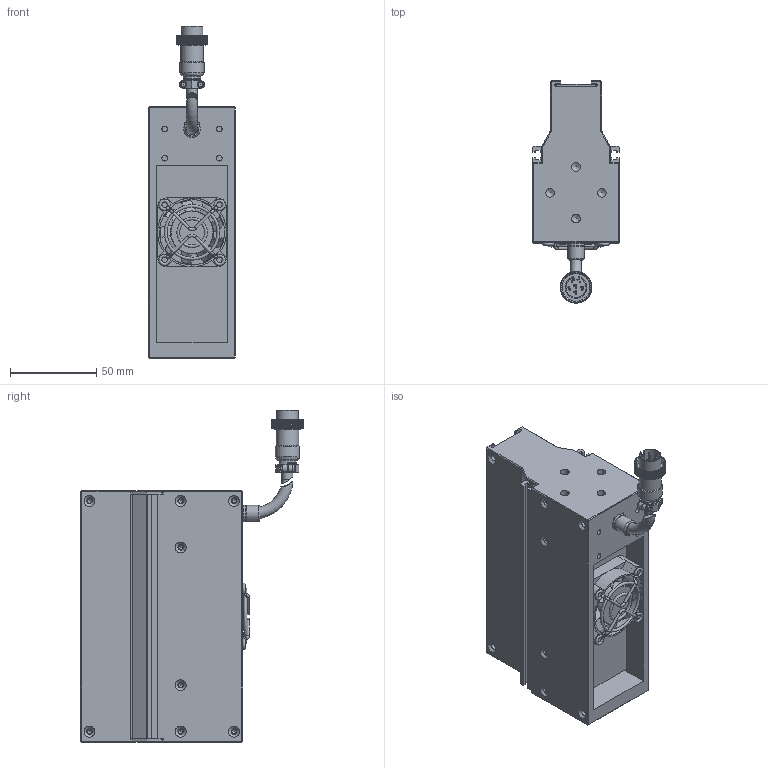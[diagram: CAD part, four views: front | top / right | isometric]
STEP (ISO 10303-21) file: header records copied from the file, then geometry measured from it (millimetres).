
FILE_DESCRIPTION (( 'STEP AP203' ), '1' );
FILE_NAME ('OPT-LSS146-W-V3.1U尨砩芞.STEP', '2025-01-20T07:49:30', ( 'USER' ), ( '' ), 'SwSTEP 2.0', 'SolidWorks 2016', '' );
FILE_SCHEMA (( 'CONFIG_CONTROL_DESIGN' ));
Length unit declared in the file: millimetre
Products named in the file (2): OPT-LSS146-W-V3.1U尨砩芞
Bounding box: 50 x 129.15 x 192.83 mm (x, y, z)
Volume: 499491.3 mm3; surface area: 96930.3 mm2
Topology: 10 solids, 18 shells, 3506 faces, 7734 edges, 4311 vertices
Faces by surface type: bspline 2086, cylinder 692, plane 616, torus 63, cone 49
Full cylindrical faces by diameter (mm): 0.95 x6, 1.1 x2, 1.4 x2, 1.6 x4, 2 x5, 2.5 x16, 3.2 x8, 3.4 x16, 3.5 x4, 5 x8, 6.2 x4, 6.4 x3, 7.5 x1, 8.6 x1, 9.3 x1, 9.8 x1, 10 x1, 13.2 x1, 14 x1, 16.1 x1, 24.8 x1, 38 x1
Entity records: 118718 total; most frequent: CARTESIAN_POINT 60998, ORIENTED_EDGE 15028, EDGE_CURVE 7514, B_SPLINE_CURVE_WITH_KNOTS 5447, DIRECTION 5372, VERTEX_POINT 4258, EDGE_LOOP 3752, FACE_OUTER_BOUND 3620
